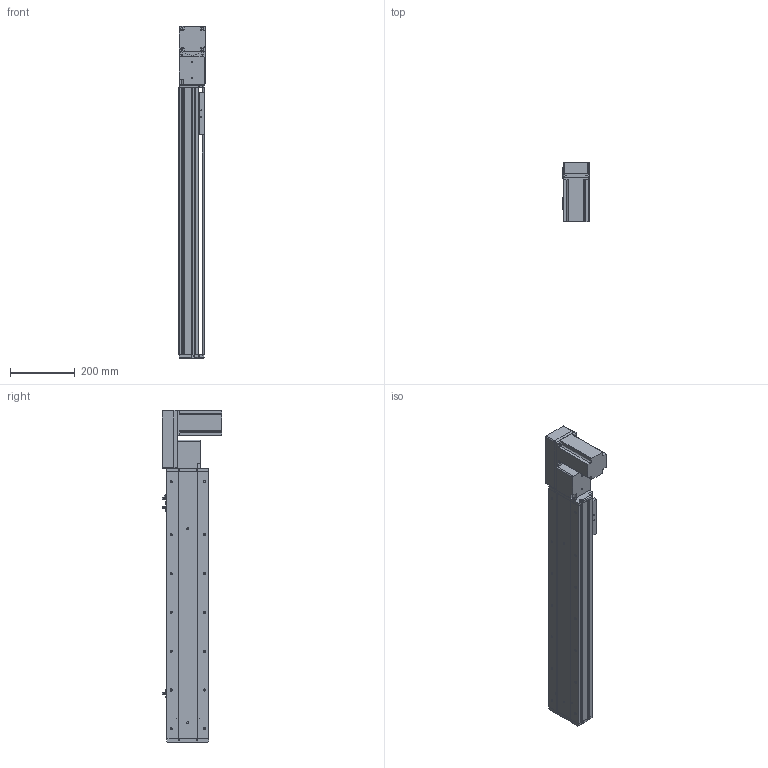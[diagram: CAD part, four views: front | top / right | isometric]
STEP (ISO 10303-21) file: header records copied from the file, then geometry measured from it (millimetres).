
FILE_DESCRIPTION (( 'STEP AP214' ), '1' );
FILE_NAME ('KSD130B-S600-MRB-CM.STEP', '2019-09-21T06:49:17', ( '微软用户' ), ( '微软中国' ), 'SwSTEP 2.0', 'SolidWorks 2014', '' );
FILE_SCHEMA (( 'AUTOMOTIVE_DESIGN' ));
Length unit declared in the file: millimetre
Products named in the file (12): U倰嫖萇EEㄜSX672; 130宽盖板半封闭同步带-600行程; 130宽马达安装板同步带右-改镜向_默认<按加工>; 130宽马达安装板同步带半封闭; 130宽同步带安装座半封闭; 130宽端盖同步带半封闭; 130宽底板半封闭同步带-600行程; KSD130B-S600-MRB-CM; 台达ECMA－C20807AS伺服电机; 130宽模组保护罩上下左右折-同步带; 130宽模组马达安装板连板左右折同步带; 覜茼え100遵圉猾敕
Assembly tree (13 placements, depth 2):
  KSD130B-S600-MRB-CM
    130宽底板半封闭同步带-600行程
    130宽端盖同步带半封闭
    130宽同步带安装座半封闭
    130宽马达安装板同步带半封闭
    130宽马达安装板同步带右-改镜向_默认<按加工>
    130宽盖板半封闭同步带-600行程
    U倰嫖萇EEㄜSX672  x3
    覜茼え100遵圉猾敕
    130宽模组马达安装板连板左右折同步带
    130宽模组保护罩上下左右折-同步带
    台达ECMA－C20807AS伺服电机
Bounding box: 81 x 184.8 x 1027 mm (x, y, z)
Volume: 3910237.2 mm3; surface area: 1030351.5 mm2
Topology: 14 solids, 14 shells, 1427 faces, 4021 edges, 2581 vertices
Faces by surface type: cylinder 670, plane 610, cone 147
Entity records: 45799 total; most frequent: CARTESIAN_POINT 8238, DIRECTION 7019, ORIENTED_EDGE 6734, EDGE_CURVE 3367, AXIS2_PLACEMENT_3D 2542, VERTEX_POINT 2205, VECTOR 1935, LINE 1935
